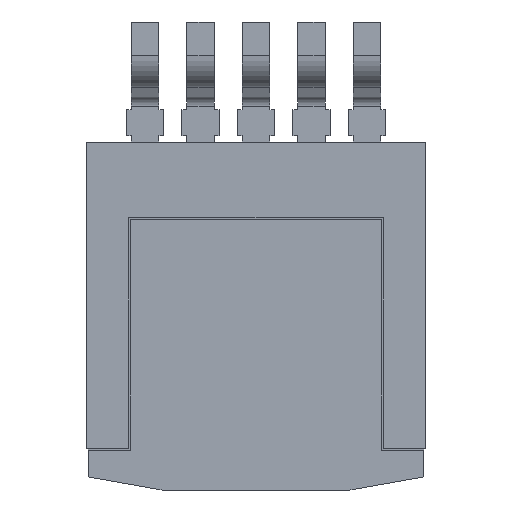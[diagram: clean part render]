
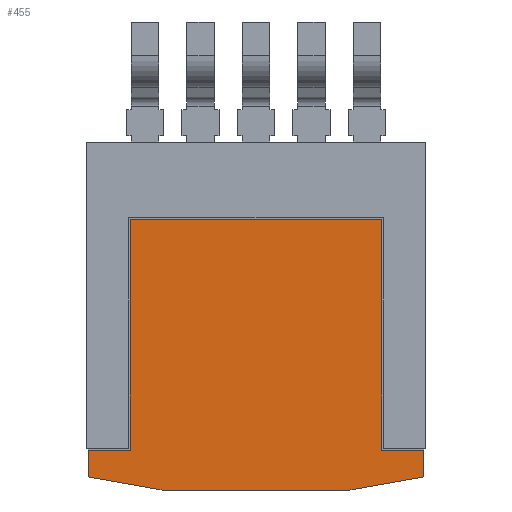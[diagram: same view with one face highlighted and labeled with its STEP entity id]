
A CAD part, front view. The second image highlights one B-rep face of the part: STEP entity #455.
In plain terms, the highlighted planar face has unit normal (0, -1, 0).
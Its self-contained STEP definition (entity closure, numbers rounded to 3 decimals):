
#447 = EDGE_CURVE ( 'NONE', #448, #534, #2612, .T. ) ;
#448 = VERTEX_POINT ( 'NONE', #2669 ) ;
#449 = ORIENTED_EDGE ( 'NONE', *, *, #450, .F. ) ;
#450 = EDGE_CURVE ( 'NONE', #451, #448, #2668, .T. ) ;
#451 = VERTEX_POINT ( 'NONE', #2664 ) ;
#452 = ORIENTED_EDGE ( 'NONE', *, *, #453, .F. ) ;
#453 = EDGE_CURVE ( 'NONE', #454, #451, #2663, .T. ) ;
#454 = VERTEX_POINT ( 'NONE', #2659 ) ;
#455 = ADVANCED_FACE ( 'NONE', ( #2658 ), #2699, .T. ) ;
#456 = EDGE_LOOP ( 'NONE', ( #457, #461, #464, #467, #470, #532, #535, #449, #452, #517 ) ) ;
#457 = ORIENTED_EDGE ( 'NONE', *, *, #458, .F. ) ;
#458 = EDGE_CURVE ( 'NONE', #459, #460, #2694, .T. ) ;
#459 = VERTEX_POINT ( 'NONE', #2690 ) ;
#460 = VERTEX_POINT ( 'NONE', #2689 ) ;
#461 = ORIENTED_EDGE ( 'NONE', *, *, #462, .T. ) ;
#462 = EDGE_CURVE ( 'NONE', #459, #463, #2688, .T. ) ;
#463 = VERTEX_POINT ( 'NONE', #2684 ) ;
#464 = ORIENTED_EDGE ( 'NONE', *, *, #465, .T. ) ;
#465 = EDGE_CURVE ( 'NONE', #463, #466, #2683, .T. ) ;
#466 = VERTEX_POINT ( 'NONE', #2679 ) ;
#467 = ORIENTED_EDGE ( 'NONE', *, *, #468, .T. ) ;
#468 = EDGE_CURVE ( 'NONE', #466, #469, #2678, .T. ) ;
#469 = VERTEX_POINT ( 'NONE', #2674 ) ;
#470 = ORIENTED_EDGE ( 'NONE', *, *, #530, .T. ) ;
#517 = ORIENTED_EDGE ( 'NONE', *, *, #518, .F. ) ;
#518 = EDGE_CURVE ( 'NONE', #460, #454, #2770, .T. ) ;
#530 = EDGE_CURVE ( 'NONE', #469, #531, #2844, .T. ) ;
#531 = VERTEX_POINT ( 'NONE', #2840 ) ;
#532 = ORIENTED_EDGE ( 'NONE', *, *, #533, .T. ) ;
#533 = EDGE_CURVE ( 'NONE', #531, #534, #2839, .T. ) ;
#534 = VERTEX_POINT ( 'NONE', #2835 ) ;
#535 = ORIENTED_EDGE ( 'NONE', *, *, #447, .F. ) ;
#2372 = DIRECTION ( 'NONE',  ( 0., 0., 1. ) ) ;
#2610 = VECTOR ( 'NONE', #2372, 1000. ) ;
#2611 = CARTESIAN_POINT ( 'NONE',  ( -5.15, 0.1, -6.05 ) ) ;
#2612 = LINE ( 'NONE', #2611, #2610 ) ;
#2658 = FACE_OUTER_BOUND ( 'NONE', #456, .T. ) ;
#2659 = CARTESIAN_POINT ( 'NONE',  ( 2.881, 0.1, -7.32 ) ) ;
#2660 = DIRECTION ( 'NONE',  ( -1., 0., 0. ) ) ;
#2661 = VECTOR ( 'NONE', #2660, 1000. ) ;
#2662 = CARTESIAN_POINT ( 'NONE',  ( -2.881, 0.1, -7.32 ) ) ;
#2663 = LINE ( 'NONE', #2662, #2661 ) ;
#2664 = CARTESIAN_POINT ( 'NONE',  ( -2.881, 0.1, -7.32 ) ) ;
#2665 = DIRECTION ( 'NONE',  ( -0.985, 0., 0.174 ) ) ;
#2666 = VECTOR ( 'NONE', #2665, 1000. ) ;
#2667 = CARTESIAN_POINT ( 'NONE',  ( -5.15, 0.1, -6.92 ) ) ;
#2668 = LINE ( 'NONE', #2667, #2666 ) ;
#2669 = CARTESIAN_POINT ( 'NONE',  ( -5.15, 0.1, -6.92 ) ) ;
#2674 = CARTESIAN_POINT ( 'NONE',  ( -3.85, 0.1, 0.98 ) ) ;
#2675 = DIRECTION ( 'NONE',  ( -1., 0., 0. ) ) ;
#2676 = VECTOR ( 'NONE', #2675, 1000. ) ;
#2677 = CARTESIAN_POINT ( 'NONE',  ( -3.9, 0.1, 0.98 ) ) ;
#2678 = LINE ( 'NONE', #2677, #2676 ) ;
#2679 = CARTESIAN_POINT ( 'NONE',  ( 3.85, 0.1, 0.98 ) ) ;
#2680 = DIRECTION ( 'NONE',  ( 0., 0., 1. ) ) ;
#2681 = VECTOR ( 'NONE', #2680, 1000. ) ;
#2682 = CARTESIAN_POINT ( 'NONE',  ( 3.85, 0.1, -6.05 ) ) ;
#2683 = LINE ( 'NONE', #2682, #2681 ) ;
#2684 = CARTESIAN_POINT ( 'NONE',  ( 3.85, 0.1, -6.1 ) ) ;
#2685 = DIRECTION ( 'NONE',  ( -1., 0., 0. ) ) ;
#2686 = VECTOR ( 'NONE', #2685, 1000. ) ;
#2687 = CARTESIAN_POINT ( 'NONE',  ( 5.15, 0.1, -6.1 ) ) ;
#2688 = LINE ( 'NONE', #2687, #2686 ) ;
#2689 = CARTESIAN_POINT ( 'NONE',  ( 5.15, 0.1, -6.92 ) ) ;
#2690 = CARTESIAN_POINT ( 'NONE',  ( 5.15, 0.1, -6.1 ) ) ;
#2691 = DIRECTION ( 'NONE',  ( 0., 0., -1. ) ) ;
#2692 = VECTOR ( 'NONE', #2691, 1000. ) ;
#2693 = CARTESIAN_POINT ( 'NONE',  ( 5.15, 0.1, -6.05 ) ) ;
#2694 = LINE ( 'NONE', #2693, #2692 ) ;
#2695 = DIRECTION ( 'NONE',  ( 0., 0., -1. ) ) ;
#2696 = DIRECTION ( 'NONE',  ( 0., -1., 0. ) ) ;
#2697 = CARTESIAN_POINT ( 'NONE',  ( -5.2, 0.1, 3.35 ) ) ;
#2698 = AXIS2_PLACEMENT_3D ( 'NONE', #2697, #2696, #2695 ) ;
#2699 = PLANE ( 'NONE',  #2698 ) ;
#2767 = DIRECTION ( 'NONE',  ( -0.985, 0., -0.174 ) ) ;
#2768 = VECTOR ( 'NONE', #2767, 1000. ) ;
#2769 = CARTESIAN_POINT ( 'NONE',  ( 2.881, 0.1, -7.32 ) ) ;
#2770 = LINE ( 'NONE', #2769, #2768 ) ;
#2835 = CARTESIAN_POINT ( 'NONE',  ( -5.15, 0.1, -6.1 ) ) ;
#2836 = DIRECTION ( 'NONE',  ( -1., 0., 0. ) ) ;
#2837 = VECTOR ( 'NONE', #2836, 1000. ) ;
#2838 = CARTESIAN_POINT ( 'NONE',  ( -5.15, 0.1, -6.1 ) ) ;
#2839 = LINE ( 'NONE', #2838, #2837 ) ;
#2840 = CARTESIAN_POINT ( 'NONE',  ( -3.85, 0.1, -6.1 ) ) ;
#2841 = DIRECTION ( 'NONE',  ( 0., 0., -1. ) ) ;
#2842 = VECTOR ( 'NONE', #2841, 1000. ) ;
#2843 = CARTESIAN_POINT ( 'NONE',  ( -3.85, 0.1, -6.05 ) ) ;
#2844 = LINE ( 'NONE', #2843, #2842 ) ;
